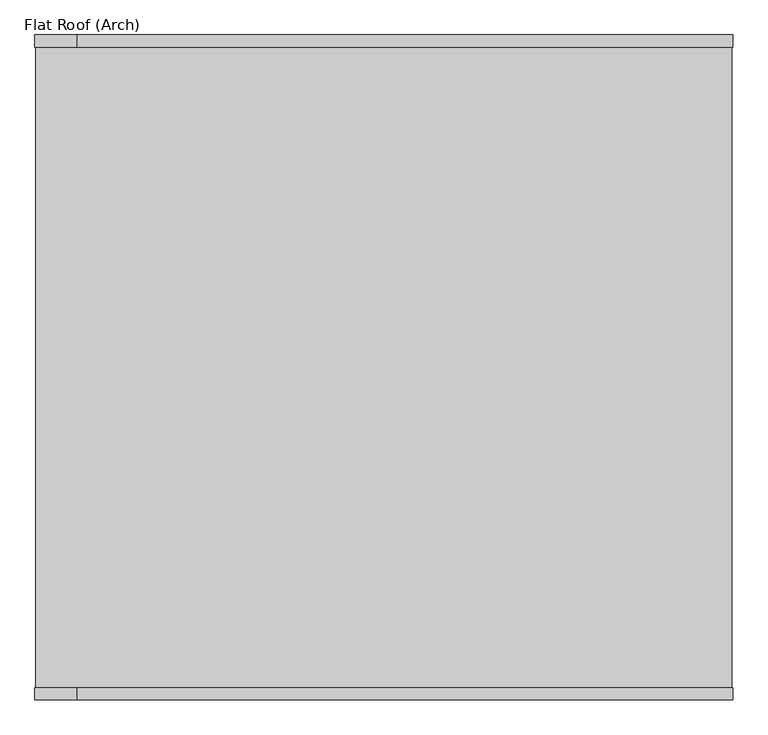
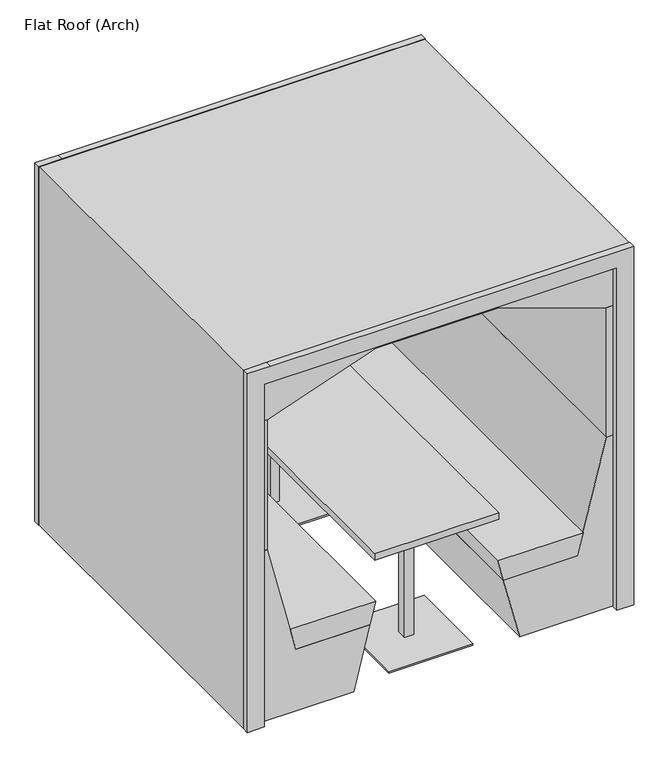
"""IFC4 building model written with IfcOpenShell, lengths in millimetres: furniture geometry, Furniture_WorkPod_Spacestor_RailwayCarriage : Flat Roof (Arch)."""

from ifc_helpers import new_model, si_unit, point, frame, frame_2d, origin, origin_with_axes, place, context, project, spatial, polyline, circle_curve, trimmed, segment, composite_curve, outline, extrude, source, transform, mapped, element, save


def flat_roof_arch_5d52fd44(model_context):
    return source(origin(), model_context, "Body", "SweptSolid", [
        extrude(outline(composite_curve([segment(trimmed(circle_curve(frame_2d((988.5, -1615.0)), 15.0), [point((973.5, -1615.0))], [point((1003.5, -1615.0))], False, "CARTESIAN"), True, "CONTINUOUS"), segment(trimmed(circle_curve(frame_2d((988.5, -1615.0)), 15.0), [point((1003.5, -1615.0))], [point((973.5, -1615.0))], False, "CARTESIAN"), True, "CONTINUOUS")], self_intersect=False)), origin_with_axes(), (0.0, 0.0, 1.0), 15.0),
        extrude(outline(composite_curve([segment(trimmed(circle_curve(frame_2d((-988.5, -1615.0)), 15.0), [point((-1003.5, -1615.0))], [point((-973.5, -1615.0))], False, "CARTESIAN"), True, "CONTINUOUS"), segment(trimmed(circle_curve(frame_2d((-988.5, -1615.0)), 15.0), [point((-973.5, -1615.0))], [point((-1003.5, -1615.0))], False, "CARTESIAN"), True, "CONTINUOUS")], self_intersect=False)), origin_with_axes(), (0.0, 0.0, 1.0), 15.0),
        extrude(outline(composite_curve([segment(trimmed(circle_curve(frame_2d((988.5, -167.0)), 15.0), [point((973.5, -167.0))], [point((1003.5, -167.0))], False, "CARTESIAN"), True, "CONTINUOUS"), segment(trimmed(circle_curve(frame_2d((988.5, -167.0)), 15.0), [point((1003.5, -167.0))], [point((973.5, -167.0))], False, "CARTESIAN"), True, "CONTINUOUS")], self_intersect=False)), origin_with_axes(), (0.0, 0.0, 1.0), 15.0),
        extrude(outline(composite_curve([segment(trimmed(circle_curve(frame_2d((-988.5, -167.0)), 15.0), [point((-1003.5, -167.0))], [point((-973.5, -167.0))], False, "CARTESIAN"), True, "CONTINUOUS"), segment(trimmed(circle_curve(frame_2d((-988.5, -167.0)), 15.0), [point((-973.5, -167.0))], [point((-1003.5, -167.0))], False, "CARTESIAN"), True, "CONTINUOUS")], self_intersect=False)), origin_with_axes(), (0.0, 0.0, 1.0), 15.0),
        extrude(outline(polyline([(3.0, 940.0), (3.0, 1030.0), (2025.0, 1030.0), (2025.0, -905.5), (2025.0, -1030.0), (3.0, -1030.0), (3.0, -940.0), (1935.0, -940.0), (1935.0, 940.0), (3.0, 940.0)])), frame((0.0, 61.0, 0.0), z_axis=(0.0, 1.0, 0.0), x_axis=(0.0, 0.0, 1.0)), (0.0, 0.0, 1.0), 36.0),
        extrude(outline(polyline([(3.0, 940.0), (3.0, 1030.0), (2025.0, 1030.0), (2025.0, -905.5), (2025.0, -1030.0), (3.0, -1030.0), (3.0, -940.0), (1935.0, -940.0), (1935.0, 940.0), (3.0, 940.0)])), frame((0.0, -1866.0, 0.0), z_axis=(0.0, 1.0, 0.0), x_axis=(0.0, 0.0, 1.0)), (0.0, 0.0, 1.0), 36.0),
        extrude(outline(polyline([(323.7167545, -1830.0), (-323.7167545, -1830.0), (-323.7167545, 0.0), (323.7167545, 0.0), (323.7167545, -1830.0)])), frame((0.0, 0.0, 1899.6), z_axis=(0.0, 0.0, 1.0), x_axis=(1.0, 0.0, 0.0)), (0.0, 0.0, 1.0), 62.0),
        extrude(outline(polyline([(-904.5, -1830.0), (-966.5, -1830.0), (-966.5, 0.0), (-904.5, 0.0), (-904.5, -1830.0)])), frame((0.0, 0.0, 969.0), z_axis=(0.0, 0.0, 1.0), x_axis=(1.0, 0.0, 0.0)), (0.0, 0.0, 1.0), 730.62),
        extrude(outline(polyline([(966.5, -1830.0), (904.5, -1830.0), (904.5, 0.0), (966.5, 0.0), (966.5, -1830.0)])), frame((0.0, 0.0, 969.0), z_axis=(0.0, 0.0, 1.0), x_axis=(1.0, 0.0, 0.0)), (0.0, 0.0, 1.0), 730.62),
        extrude(outline(polyline([(1699.62, -966.5), (1699.62, -904.5), (1899.5997087, -323.7167545), (1961.6, -323.7167545), (1961.6, -966.5), (1699.62, -966.5)])), frame((0.0, -1830.0, 0.0), z_axis=(0.0, 1.0, 0.0), x_axis=(0.0, 0.0, 1.0)), (0.0, 0.0, 1.0), 1830.0),
        extrude(outline(polyline([(1699.62, 966.5), (1961.6, 966.5), (1961.6, 323.7167545), (1899.5997087, 323.7167545), (1699.62, 904.5), (1699.62, 966.5)])), frame((0.0, -1830.0, 0.0), z_axis=(0.0, 1.0, 0.0), x_axis=(0.0, 0.0, 1.0)), (0.0, 0.0, 1.0), 1830.0),
        extrude(outline(polyline([(354.0, -750.5348655), (354.0, -355.6348655), (475.0, -325.4661771), (475.0, -780.6245423), (354.0, -750.5348655)])), frame((0.0, -1830.0, 0.0), z_axis=(0.0, 1.0, 0.0), x_axis=(0.0, 0.0, 1.0)), (0.0, 0.0, 1.0), 1830.0),
        extrude(outline(polyline([(354.0, 750.5348655), (475.0, 780.6245423), (475.0, 325.4661771), (354.0, 355.6348655), (354.0, 750.5348655)])), frame((0.0, -1830.0, 0.0), z_axis=(0.0, 1.0, 0.0), x_axis=(0.0, 0.0, 1.0)), (0.0, 0.0, 1.0), 1830.0),
        extrude(outline(polyline([(969.0, -903.47), (969.0, -967.0), (6.0, -967.0), (6.0, -442.4010105), (354.0, -355.6348655), (354.0, -750.5348655), (969.0, -903.47)])), frame((0.0, -1830.0, 0.0), z_axis=(0.0, 1.0, 0.0), x_axis=(0.0, 0.0, 1.0)), (0.0, 0.0, 1.0), 1830.0),
        extrude(outline(polyline([(969.0, 903.47), (354.0, 750.5348655), (354.0, 355.6348655), (6.0, 442.4010105), (6.0, 967.0), (969.0, 967.0), (969.0, 903.47)])), frame((0.0, -1830.0, 0.0), z_axis=(0.0, 1.0, 0.0), x_axis=(0.0, 0.0, 1.0)), (0.0, 0.0, 1.0), 1830.0),
        extrude(outline(polyline([(225.0, -85.0), (225.0, -535.0), (-225.0, -535.0), (-225.0, -85.0), (225.0, -85.0)])), origin_with_axes(), (0.0, 0.0, 1.0), 10.0),
        extrude(outline(polyline([(25.0, -285.0), (25.0, -335.0), (-25.0, -335.0), (-25.0, -285.0), (25.0, -285.0)])), frame((0.0, 0.0, 1.5), z_axis=(0.0, 0.0, 1.0), x_axis=(1.0, 0.0, 0.0)), (0.0, 0.0, 1.0), 705.0),
        extrude(outline(polyline([(225.0, -1325.0), (225.0, -1775.0), (-225.0, -1775.0), (-225.0, -1325.0), (225.0, -1325.0)])), origin_with_axes(), (0.0, 0.0, 1.0), 10.0),
        extrude(outline(polyline([(25.0, -1525.0), (25.0, -1575.0), (-25.0, -1575.0), (-25.0, -1525.0), (25.0, -1525.0)])), frame((0.0, 0.0, 1.5), z_axis=(0.0, 0.0, 1.0), x_axis=(1.0, 0.0, 0.0)), (0.0, 0.0, 1.0), 705.0),
        extrude(outline(polyline([(330.0, 0.0), (330.0, -1830.0), (-330.0, -1830.0), (-330.0, 0.0), (330.0, 0.0)])), frame((0.0, 0.0, 708.0), z_axis=(0.0, 0.0, 1.0), x_axis=(1.0, 0.0, 0.0)), (0.0, 0.0, 1.0), 36.0),
        extrude(outline(polyline([(940.0, 61.0), (-940.0, 61.0), (-940.0, 79.0), (940.0, 79.0), (940.0, 61.0)])), frame((0.0, 0.0, 3.0), z_axis=(0.0, 0.0, 1.0), x_axis=(1.0, 0.0, 0.0)), (0.0, 0.0, 1.0), 1932.0),
        extrude(outline(polyline([(-967.5, 6.0), (967.5, 6.0), (967.5, -12.0), (-967.5, -12.0), (-967.5, 6.0)])), frame((0.0, 0.0, 3.0), z_axis=(0.0, 0.0, 1.0), x_axis=(1.0, 0.0, 0.0)), (0.0, 0.0, 1.0), 966.0),
        extrude(outline(polyline([(-967.5, 6.0), (967.5, 6.0), (967.5, -12.0), (-967.5, -12.0), (-967.5, 6.0)])), frame((0.0, 0.0, 969.0), z_axis=(0.0, 0.0, 1.0), x_axis=(1.0, 0.0, 0.0)), (0.0, 0.0, 1.0), 999.6238267),
        extrude(outline(polyline([(2005.0, 1010.0), (3.0, 1010.0), (3.0, 1028.0), (2023.0, 1028.0), (2023.0, -1028.0), (3.0, -1028.0), (3.0, -1010.0), (2005.0, -1010.0), (2005.0, 1010.0)])), frame((0.0, -1830.0, 0.0), z_axis=(0.0, 1.0, 0.0), x_axis=(0.0, 0.0, 1.0)), (0.0, 0.0, 1.0), 1891.0),
    ])


if __name__ == "__main__":
    model = new_model("IFC4")
    model_context = context("Model", 3, world=origin())
    ifc_project = project(units=[si_unit("LENGTHUNIT", "METRE", prefix="MILLI")], contexts=[model_context])
    site = spatial("IfcSite", under=ifc_project)
    building = spatial("IfcBuilding", under=site)
    placement = place(None, origin())
    flat_roof_arch_shape = flat_roof_arch_5d52fd44(model_context)
    element("IfcFurniture", 1, ObjectType="Furniture_WorkPod_Spacestor_RailwayCarriage : Flat Roof (Arch)", at=placement, inside=building, context=model_context, shape_type="MappedRepresentation", body=[
        mapped(flat_roof_arch_shape, transform((0.0, 0.0, 0.0), x_axis=(1.0, 0.0, 0.0), y_axis=(0.0, 1.0, 0.0), z_axis=(0.0, 0.0, 1.0))),
    ])
    save(model, "model.ifc")
